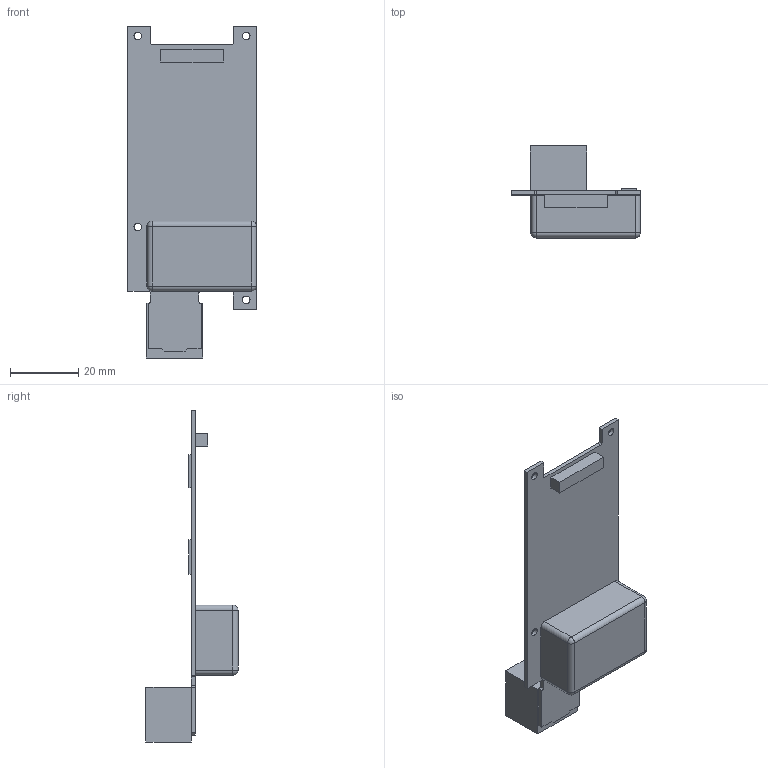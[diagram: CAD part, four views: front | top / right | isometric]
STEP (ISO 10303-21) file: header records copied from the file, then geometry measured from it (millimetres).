
FILE_DESCRIPTION(/* description */ ('VariCAD 2008 1.04 AP-203'),/* implementation_level */ '2;1');
FILE_NAME(/* name */ '0353-00-01',/* time_stamp */ '2008-06-02T23:33:30-06:00',/* author */ (''),/* organization */ (''),/* preprocessor_version */ 'ST-DEVELOPER v10',/* originating_system */ 'VariCAD 2008 1.04; kernel version (20071230)',/* authorisation */ '');
FILE_SCHEMA (('CONFIG_CONTROL_DESIGN'));
Length unit declared in the file: millimetre
Products named in the file (1): Part
Bounding box: 37.59 x 26.95 x 97.15 mm (x, y, z)
Volume: 14652 mm3; surface area: 9324.1 mm2
Topology: 1 solids, 1 shells, 87 faces, 227 edges, 142 vertices
Faces by surface type: plane 60, cylinder 23, sphere 4
Entity records: 2665 total; most frequent: CARTESIAN_POINT 454, DIRECTION 447, ORIENTED_EDGE 446, EDGE_CURVE 223, LINE 177, VECTOR 177, VERTEX_POINT 142, AXIS2_PLACEMENT_3D 135
